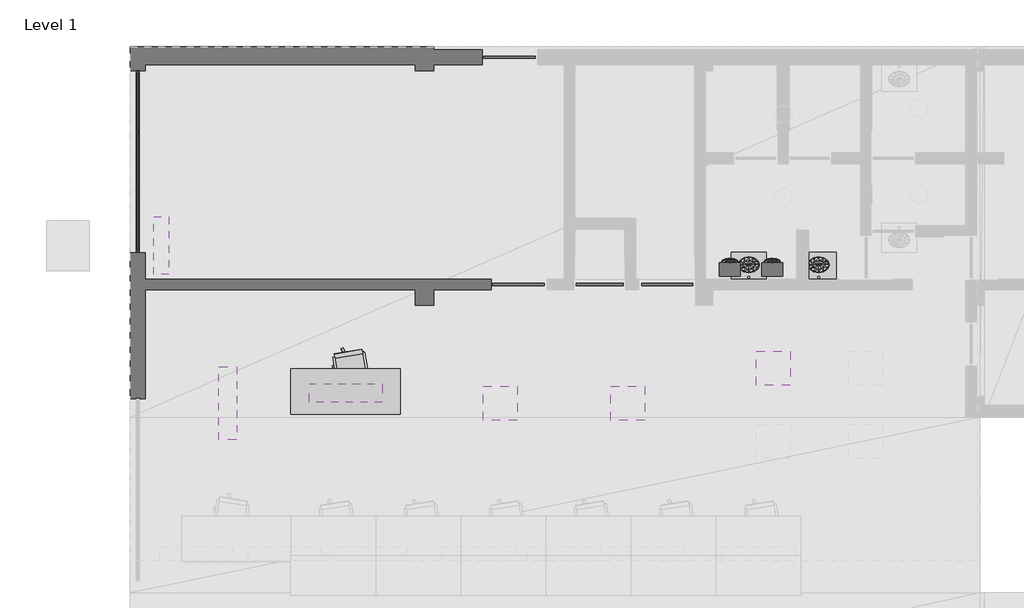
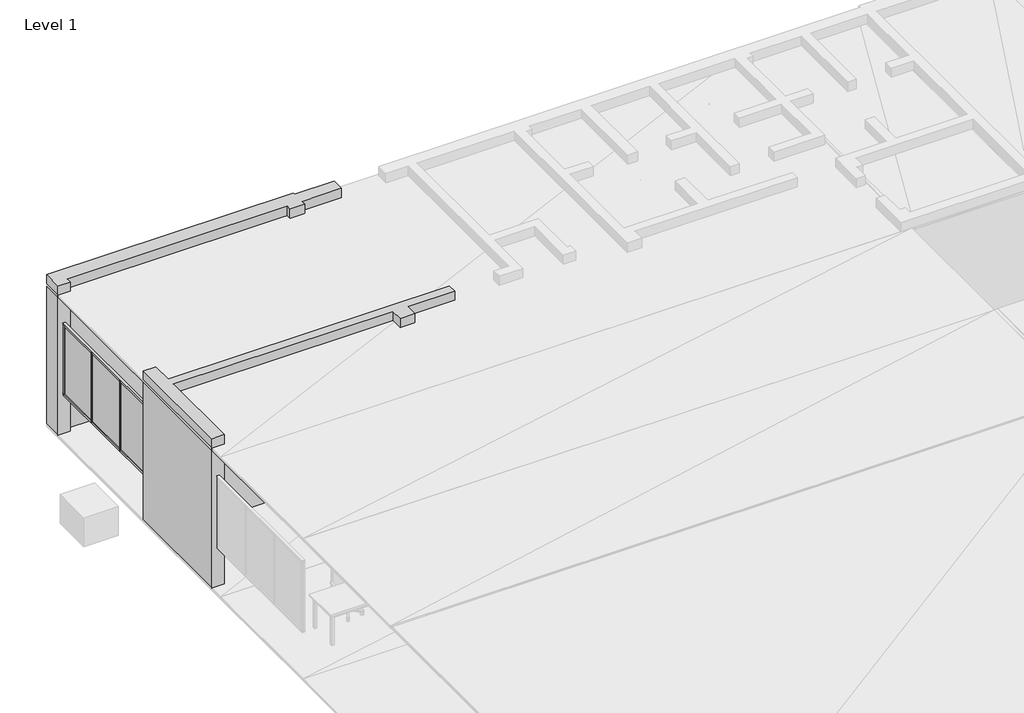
# One storey, part 11 of 14: 20 proxies.
"""IFC4 building model written with IfcOpenShell, lengths in millimetres."""

from ifc_helpers import new_model, si_unit, frame, origin, origin_with_axes, place, context, project, spatial, polyline, outline, extrude, faceted_brep, element, save

model = new_model("IFC4")

# Units and contexts
model_context = context("Model", 3, world=origin())
ifc_project = project(units=[si_unit("LENGTHUNIT", "METRE", prefix="MILLI")], contexts=[model_context])

# Site, building, storey
site = spatial("IfcSite", under=ifc_project)
building = spatial("IfcBuilding", under=site)
storey = spatial("IfcBuildingStorey", under=building, Name="Level 1", Elevation=0.0)

# Proxies
placement = place(None, origin())
element("IfcBuildingElementProxy", 1, Name="Generic Models", at=placement, inside=storey, context=model_context, shape_type="SweptSolid", body=[
    extrude(outline(polyline([(2656.826019, 16939.418793), (4456.82621, 16939.418793), (4456.82621, 16189.418793), (2656.826019, 16189.418793), (2656.826019, 16939.418793)])), frame((0.0, 0.0, 709.999979), z_axis=(0.0, 0.0, 1.0), x_axis=(1.0, 0.0, 0.0)), (0.0, 0.0, 1.0), 40.000021),
])
element("IfcBuildingElementProxy", 2, Name="Generic Models", at=placement, inside=storey, context=model_context, shape_type="SweptSolid", body=[
    extrude(outline(polyline([(5006.017685, 18239.999771), (5006.017685, 17989.999771), (4706.017494, 17989.999771), (4706.017494, 18239.999771), (256.826103, 18239.999771), (256.826103, 16450.000763), (6.826094, 16450.000763), (6.826094, 18850.000381), (256.826103, 18850.000381), (256.826103, 18420.000076), (5956.017494, 18420.000076), (5956.017494, 18239.999771), (5006.017685, 18239.999771)])), origin_with_axes(), (0.0, 0.0, 1.0), 3200.000048),
])
element("IfcBuildingElementProxy", 3, Name="Generic Models", at=placement, inside=storey, context=model_context, shape_type="SweptSolid", body=[
    extrude(outline(polyline([(5006.017685, 22200.000763), (5806.017399, 22200.000763), (5806.017399, 21950.000763), (5006.017685, 21950.000763), (5006.017685, 21850.000381), (4706.017494, 21850.000381), (4706.017494, 21950.000763), (256.826103, 21950.000763), (256.826103, 21850.000381), (6.826094, 21850.000381), (6.826094, 22250.0), (5006.017685, 22250.0), (5006.017685, 22200.000763)])), origin_with_axes(), (0.0, 0.0, 1.0), 3200.000048),
])
element("IfcBuildingElementProxy", 4, Name="Generic Models", at=placement, inside=storey, context=model_context, shape_type="SweptSolid", body=[
    extrude(outline(polyline([(399.999976, 18494.998932), (399.999976, 19444.999695), (639.999986, 19444.999695), (639.999986, 18494.998932), (399.999976, 18494.998932)])), frame((0.0, 0.0, 2309.999943), z_axis=(0.0, 0.0, 1.0), x_axis=(1.0, 0.0, 0.0)), (0.0, 0.0, 1.0), 280.00021),
])
element("IfcBuildingElementProxy", 5, Name="Generic Models", at=placement, inside=storey, context=model_context, shape_type="SweptSolid", body=[
    extrude(outline(polyline([(9279.017448, 18347.499847), (9279.017448, 18312.5), (8433.017731, 18312.5), (8433.017731, 18347.499847), (9279.017448, 18347.499847)])), origin_with_axes(), (0.0, 0.0, 1.0), 2099.999905),
])
element("IfcBuildingElementProxy", 6, Name="Generic Models", at=placement, inside=storey, context=model_context, shape_type="SweptSolid", body=[
    extrude(outline(polyline([(8131.417274, 18347.499847), (8131.417274, 18312.5), (7360.617638, 18312.5), (7360.617638, 18347.499847), (8131.417274, 18347.499847)])), origin_with_axes(), (0.0, 0.0, 1.0), 2099.999905),
])
element("IfcBuildingElementProxy", 7, Name="Generic Models", at=placement, inside=storey, context=model_context, shape_type="SweptSolid", body=[
    extrude(outline(polyline([(6829.017639, 18347.499847), (6829.017639, 18312.5), (5983.017445, 18312.5), (5983.017445, 18347.499847), (6829.017639, 18347.499847)])), origin_with_axes(), (0.0, 0.0, 1.0), 2099.999905),
])
element("IfcBuildingElementProxy", 8, Name="Generic Models", at=placement, inside=storey, context=model_context, shape_type="SweptSolid", body=[
    extrude(outline(polyline([(6679.017544, 22092.500687), (6679.017544, 22057.500839), (5833.017349, 22057.500839), (5833.017349, 22092.500687), (6679.017544, 22092.500687)])), origin_with_axes(), (0.0, 0.0, 1.0), 2099.999905),
])
element("IfcBuildingElementProxy", 9, Name="Generic Models", at=placement, inside=storey, context=model_context, shape_type="SweptSolid", body=[
    extrude(outline(polyline([(153.899997, 20837.499619), (108.900003, 20837.499619), (108.900003, 20862.499237), (153.899997, 20862.499237), (153.899997, 20837.499619)])), frame((0.0, 0.0, 850.000024), z_axis=(0.0, 0.0, 1.0), x_axis=(1.0, 0.0, 0.0)), (0.0, 0.0, 1.0), 1499.999881),
    extrude(outline(polyline([(153.899997, 19837.499619), (108.900003, 19837.499619), (108.900003, 19862.499237), (153.899997, 19862.499237), (153.899997, 19837.499619)])), frame((0.0, 0.0, 850.000024), z_axis=(0.0, 0.0, 1.0), x_axis=(1.0, 0.0, 0.0)), (0.0, 0.0, 1.0), 1499.999881),
    extrude(outline(polyline([(153.899997, 21807.500839), (108.900003, 21807.500839), (108.900003, 21852.500916), (153.899997, 21852.500916), (153.899997, 21807.500839)])), frame((0.0, 0.0, 850.000024), z_axis=(0.0, 0.0, 1.0), x_axis=(1.0, 0.0, 0.0)), (0.0, 0.0, 1.0), 1499.999881),
    extrude(outline(polyline([(153.899997, 18847.499847), (108.900003, 18847.499847), (108.900003, 18892.499924), (153.899997, 18892.499924), (153.899997, 18847.499847)])), frame((0.0, 0.0, 850.000024), z_axis=(0.0, 0.0, 1.0), x_axis=(1.0, 0.0, 0.0)), (0.0, 0.0, 1.0), 1499.999881),
    extrude(outline(polyline([(153.899997, 18850.000381), (108.900003, 18850.000381), (108.900003, 21850.000381), (153.899997, 21850.000381), (153.899997, 18850.000381)])), frame((0.0, 0.0, 2327.500105), z_axis=(0.0, 0.0, 1.0), x_axis=(1.0, 0.0, 0.0)), (0.0, 0.0, 1.0), 44.999838),
    extrude(outline(polyline([(153.899997, 18850.000381), (108.900003, 18850.000381), (108.900003, 21850.000381), (153.899997, 21850.000381), (153.899997, 18850.000381)])), frame((0.0, 0.0, 827.499986), z_axis=(0.0, 0.0, 1.0), x_axis=(1.0, 0.0, 0.0)), (0.0, 0.0, 1.0), 45.000016),
    extrude(outline(polyline([(140.400007, 18850.000381), (122.400001, 18850.000381), (122.400001, 21850.000381), (140.400007, 21850.000381), (140.400007, 18850.000381)])), frame((0.0, 0.0, 850.000024), z_axis=(0.0, 0.0, 1.0), x_axis=(1.0, 0.0, 0.0)), (0.0, 0.0, 1.0), 1499.999881),
])
element("IfcBuildingElementProxy", 10, Name="Generic Models", at=placement, inside=storey, context=model_context, shape_type="SweptSolid", body=[
    extrude(outline(polyline([(1764.189005, 15774.564743), (1464.189053, 15774.564743), (1464.189053, 16974.565506), (1764.189005, 16974.565506), (1764.189005, 15774.564743)])), frame((0.0, 0.0, 2910.000086), z_axis=(0.0, 0.0, 1.0), x_axis=(1.0, 0.0, 0.0)), (0.0, 0.0, 1.0), 39.999962),
])
element("IfcBuildingElementProxy", 11, Name="Generic Models", at=placement, inside=storey, context=model_context, shape_type="SweptSolid", body=[
    extrude(outline(polyline([(2956.82621, 16391.679764), (2956.82621, 16691.679001), (4156.826019, 16691.679001), (4156.826019, 16391.679764), (2956.82621, 16391.679764)])), frame((0.0, 0.0, 2910.000086), z_axis=(0.0, 0.0, 1.0), x_axis=(1.0, 0.0, 0.0)), (0.0, 0.0, 1.0), 39.999962),
])
element("IfcBuildingElementProxy", 12, Name="Generic Models", at=placement, inside=storey, context=model_context, shape_type="SweptSolid", body=[
    extrude(outline(polyline([(10326.018333, 16670.381546), (10326.018333, 17230.382919), (10886.017799, 17230.382919), (10886.017799, 16670.381546), (10326.018333, 16670.381546)])), frame((0.0, 0.0, 2910.000086), z_axis=(0.0, 0.0, 1.0), x_axis=(1.0, 0.0, 0.0)), (0.0, 0.0, 1.0), 39.999962),
])
element("IfcBuildingElementProxy", 13, Name="Generic Models", at=placement, inside=storey, context=model_context, shape_type="SweptSolid", body=[
    extrude(outline(polyline([(5826.017857, 16094.564438), (5826.017857, 16654.565811), (6386.018276, 16654.565811), (6386.018276, 16094.564438), (5826.017857, 16094.564438)])), frame((0.0, 0.0, 2910.000086), z_axis=(0.0, 0.0, 1.0), x_axis=(1.0, 0.0, 0.0)), (0.0, 0.0, 1.0), 39.999962),
])
element("IfcBuildingElementProxy", 14, Name="Generic Models", at=placement, inside=storey, context=model_context, shape_type="SweptSolid", body=[
    extrude(outline(polyline([(7926.018238, 16094.564438), (7926.018238, 16654.565811), (8486.018181, 16654.565811), (8486.018181, 16094.564438), (7926.018238, 16094.564438)])), frame((0.0, 0.0, 2910.000086), z_axis=(0.0, 0.0, 1.0), x_axis=(1.0, 0.0, 0.0)), (0.0, 0.0, 1.0), 39.999962),
])
element("IfcBuildingElementProxy", 15, Name="Generic Models", at=placement, inside=storey, context=model_context, shape_type="SweptSolid", body=[
    extrude(outline(polyline([(4404.326439, 16264.419556), (4359.326363, 16264.419556), (4359.326363, 16864.41803), (4404.326439, 16864.41803), (4404.326439, 16264.419556)])), frame((0.0, 0.0, 639.999986), z_axis=(0.0, 0.0, 1.0), x_axis=(1.0, 0.0, 0.0)), (0.0, 0.0, 1.0), 69.999993),
    extrude(outline(polyline([(2754.326105, 16264.419556), (2709.326029, 16264.419556), (2709.326029, 16864.41803), (2754.326105, 16864.41803), (2754.326105, 16264.419556)])), frame((0.0, 0.0, 639.999986), z_axis=(0.0, 0.0, 1.0), x_axis=(1.0, 0.0, 0.0)), (0.0, 0.0, 1.0), 69.999993),
    extrude(outline(polyline([(2731.826067, 16841.918945), (2731.826067, 16886.919022), (4381.826401, 16886.919022), (4381.826401, 16841.918945), (2731.826067, 16841.918945)])), frame((0.0, 0.0, 639.999986), z_axis=(0.0, 0.0, 1.0), x_axis=(1.0, 0.0, 0.0)), (0.0, 0.0, 1.0), 69.999993),
    extrude(outline(polyline([(2731.826067, 16241.918564), (2731.826067, 16286.91864), (4381.826401, 16286.91864), (4381.826401, 16241.918564), (2731.826067, 16241.918564)])), frame((0.0, 0.0, 639.999986), z_axis=(0.0, 0.0, 1.0), x_axis=(1.0, 0.0, 0.0)), (0.0, 0.0, 1.0), 69.999993),
    extrude(outline(polyline([(4356.826305, 16839.418411), (4356.826305, 16889.419556), (4406.826019, 16889.419556), (4406.826019, 16839.418411), (4356.826305, 16839.418411)])), frame((0.0, 0.0, 50.000001), z_axis=(0.0, 0.0, 1.0), x_axis=(1.0, 0.0, 0.0)), (0.0, 0.0, 1.0), 659.999978),
    extrude(outline(polyline([(4356.826305, 16239.41803), (4356.826305, 16289.419174), (4406.826019, 16289.419174), (4406.826019, 16239.41803), (4356.826305, 16239.41803)])), frame((0.0, 0.0, 50.000001), z_axis=(0.0, 0.0, 1.0), x_axis=(1.0, 0.0, 0.0)), (0.0, 0.0, 1.0), 659.999978),
    extrude(outline(polyline([(2706.825972, 16839.418411), (2706.825972, 16889.419556), (2756.825924, 16889.419556), (2756.825924, 16839.418411), (2706.825972, 16839.418411)])), frame((0.0, 0.0, 50.000001), z_axis=(0.0, 0.0, 1.0), x_axis=(1.0, 0.0, 0.0)), (0.0, 0.0, 1.0), 659.999978),
    extrude(outline(polyline([(2706.825972, 16239.41803), (2706.825972, 16289.419174), (2756.825924, 16289.419174), (2756.825924, 16239.41803), (2706.825972, 16239.41803)])), frame((0.0, 0.0, 50.000001), z_axis=(0.0, 0.0, 1.0), x_axis=(1.0, 0.0, 0.0)), (0.0, 0.0, 1.0), 659.999978),
])
element("IfcBuildingElementProxy", 16, Name="Generic Models", at=placement, inside=storey, context=model_context, shape_type="SweptSolid", body=[
    extrude(outline(polyline([(3402.490854, 16980.752945), (3407.511473, 16951.17569), (3377.934694, 16946.153641), (3372.913837, 16975.730896), (3402.490854, 16980.752945)])), frame((0.0, 0.0, 439.999998), z_axis=(0.0, 0.0, 1.0), x_axis=(1.0, 0.0, 0.0)), (0.0, 0.0, 1.0), 199.999988),
    extrude(outline(polyline([(3379.014969, 17133.983612), (3435.916901, 16798.780441), (3401.41058, 16792.922974), (3344.508648, 17128.126144), (3379.014969, 17133.983612)])), frame((0.0, 0.0, 612.500012), z_axis=(0.0, 0.0, 1.0), x_axis=(1.0, 0.0, 0.0)), (0.0, 0.0, 1.0), 34.999967),
    extrude(outline(polyline([(3440.169334, 17162.115097), (3444.353342, 17137.468338), (3419.705868, 17133.283615), (3415.52186, 17157.932281), (3440.169334, 17162.115097)])), frame((0.0, 0.0, 460.000008), z_axis=(0.0, 0.0, 1.0), x_axis=(1.0, 0.0, 0.0)), (0.0, 0.0, 1.0), 400.000006),
    extrude(outline(polyline([(3895.43891, 17064.432144), (3900.459528, 17034.854889), (3870.88275, 17029.834747), (3865.861893, 17059.410095), (3895.43891, 17064.432144)])), frame((0.0, 0.0, 439.999998), z_axis=(0.0, 0.0, 1.0), x_axis=(1.0, 0.0, 0.0)), (0.0, 0.0, 1.0), 199.999988),
    extrude(outline(polyline([(3871.962786, 17217.664719), (3928.864956, 16882.459641), (3894.358635, 16876.602173), (3837.456465, 17211.807251), (3871.962786, 17217.664719)])), frame((0.0, 0.0, 612.500012), z_axis=(0.0, 0.0, 1.0), x_axis=(1.0, 0.0, 0.0)), (0.0, 0.0, 1.0), 34.999967),
    extrude(outline(polyline([(3795.091867, 17222.364426), (3799.275875, 17197.717667), (3774.628401, 17193.532944), (3770.444393, 17218.18161), (3795.091867, 17222.364426)])), frame((0.0, 0.0, 460.000008), z_axis=(0.0, 0.0, 1.0), x_axis=(1.0, 0.0, 0.0)), (0.0, 0.0, 1.0), 400.000006),
    extrude(outline(polyline([(3826.623917, 17260.68306), (3838.33909, 17191.669464), (3384.826899, 17114.685059), (3373.111725, 17183.696747), (3826.623917, 17260.68306)])), frame((0.0, 0.0, 460.000008), z_axis=(0.0, 0.0, 1.0), x_axis=(1.0, 0.0, 0.0)), (0.0, 0.0, 1.0), 479.99999),
    extrude(outline(polyline([(3825.787067, 17265.611649), (3896.077871, 16851.535797), (3442.56568, 16774.551392), (3372.274876, 17188.627243), (3825.787067, 17265.611649)])), frame((0.0, 0.0, 400.000006), z_axis=(0.0, 0.0, 1.0), x_axis=(1.0, 0.0, 0.0)), (0.0, 0.0, 1.0), 69.999993),
    extrude(outline(polyline([(3651.676416, 16989.770889), (3634.176254, 16985.080719), (3616.676331, 16989.770889), (3603.865385, 17002.580643), (3599.176407, 17020.080566), (3603.865385, 17037.582397), (3616.676331, 17050.392151), (3634.176254, 17055.082321), (3651.676416, 17050.392151), (3664.487362, 17037.582397), (3669.17634, 17020.080566), (3664.487362, 17002.580643), (3651.676416, 16989.770889)])), frame((0.0, 0.0, 115.000002), z_axis=(0.0, 0.0, 1.0), x_axis=(1.0, 0.0, 0.0)), (0.0, 0.0, 1.0), 280.000009),
    extrude(outline(polyline([(3543.950796, 17240.924835), (3504.08411, 17220.052719), (3478.573799, 17268.777847), (3518.440485, 17289.651871), (3543.950796, 17240.924835)])), frame((0.0, 0.0, 35.0), z_axis=(0.0, 0.0, 1.0), x_axis=(1.0, 0.0, 0.0)), (0.0, 0.0, 1.0), 59.999999),
    extrude(outline(polyline([(3651.999235, 17023.769379), (3620.991707, 17007.534027), (3481.84371, 17273.313522), (3512.851238, 17289.546967), (3651.999235, 17023.769379)])), frame((0.0, 0.0, 82.500003), z_axis=(0.0, 0.0, 1.0), x_axis=(1.0, 0.0, 0.0)), (0.0, 0.0, 1.0), 34.999997),
    extrude(outline(polyline([(3816.329956, 17174.135208), (3784.15966, 17205.600739), (3822.617769, 17244.920731), (3854.787827, 17213.4552), (3816.329956, 17174.135208)])), frame((0.0, 0.0, 35.0), z_axis=(0.0, 0.0, 1.0), x_axis=(1.0, 0.0, 0.0)), (0.0, 0.0, 1.0), 59.999999),
    extrude(outline(polyline([(3643.190861, 17004.270554), (3618.169546, 17028.743744), (3827.940226, 17243.211746), (3852.961302, 17218.738556), (3643.190861, 17004.270554)])), frame((0.0, 0.0, 82.500003), z_axis=(0.0, 0.0, 1.0), x_axis=(1.0, 0.0, 0.0)), (0.0, 0.0, 1.0), 34.999997),
    extrude(outline(polyline([(3836.978912, 16894.449234), (3856.963396, 16934.766769), (3906.242132, 16910.341263), (3886.257648, 16870.023727), (3836.978912, 16894.449234)])), frame((0.0, 0.0, 35.0), z_axis=(0.0, 0.0, 1.0), x_axis=(1.0, 0.0, 0.0)), (0.0, 0.0, 1.0), 59.999999),
    extrude(outline(polyline([(3621.924639, 17006.622314), (3637.4681, 17037.981033), (3906.261683, 16904.752731), (3890.718222, 16873.392105), (3621.924639, 17006.622314)])), frame((0.0, 0.0, 82.500003), z_axis=(0.0, 0.0, 1.0), x_axis=(1.0, 0.0, 0.0)), (0.0, 0.0, 1.0), 34.999997),
    extrude(outline(polyline([(3577.361822, 16788.381577), (3621.882915, 16781.835556), (3613.880873, 16727.420807), (3569.359779, 16733.966827), (3577.361822, 16788.381577)])), frame((0.0, 0.0, 35.0), z_axis=(0.0, 0.0, 1.0), x_axis=(1.0, 0.0, 0.0)), (0.0, 0.0, 1.0), 59.999999),
    extrude(outline(polyline([(3617.589951, 17027.574539), (3652.217627, 17022.481918), (3608.570337, 16725.673676), (3573.9429, 16730.766296), (3617.589951, 17027.574539)])), frame((0.0, 0.0, 82.500003), z_axis=(0.0, 0.0, 1.0), x_axis=(1.0, 0.0, 0.0)), (0.0, 0.0, 1.0), 34.999997),
    extrude(outline(polyline([(3396.2605, 17002.515793), (3403.791666, 16958.150864), (3349.567413, 16948.945999), (3342.036247, 16993.310928), (3396.2605, 17002.515793)])), frame((0.0, 0.0, 35.0), z_axis=(0.0, 0.0, 1.0), x_axis=(1.0, 0.0, 0.0)), (0.0, 0.0, 1.0), 59.999999),
    extrude(outline(polyline([(3636.177063, 17038.171768), (3642.034531, 17003.665924), (3346.265793, 16953.456879), (3340.408325, 16987.96463), (3636.177063, 17038.171768)])), frame((0.0, 0.0, 82.500003), z_axis=(0.0, 0.0, 1.0), x_axis=(1.0, 0.0, 0.0)), (0.0, 0.0, 1.0), 34.999997),
])
element("IfcBuildingElementProxy", 17, Name="Generic Models", at=placement, inside=storey, context=model_context, shape_type="Brep", body=[
    faceted_brep([(10646.6465, 18684.999466, 1180.525541), (10656.024933, 18700.000763, 1180.525541), (10586.025238, 18700.000763, 1210.000038), (10691.02478, 18674.01886, 1100.000024), (10646.6465, 18655.000687, 1100.000024), (10621.025085, 18674.01886, 1180.525541), (10707.268715, 18700.000763, 1100.000024), (10646.6465, 18715.000153, 1180.525541), (10586.025238, 18670.000076, 1180.525541), (10551.025391, 18674.01886, 1180.525541), (10525.403023, 18684.999466, 1180.525541), (10516.02459, 18700.000763, 1180.525541), (10525.403023, 18715.000153, 1180.525541), (10551.025391, 18725.980759, 1180.525541), (10586.025238, 18729.999542, 1180.525541), (10621.025085, 18725.980759, 1180.525541), (10707.268715, 18670.000076, 990.00001), (10656.024933, 18648.038864, 990.00001), (10586.025238, 18648.038864, 1100.000024), (10586.025238, 18640.001297, 990.00001), (10726.024628, 18700.000763, 990.00001), (10691.02478, 18725.980759, 1100.000024), (10525.403023, 18655.000687, 1100.000024), (10481.024742, 18674.01886, 1100.000024), (10464.781761, 18700.000763, 1100.000024), (10481.024742, 18725.980759, 1100.000024), (10525.403023, 18745.000839, 1100.000024), (10586.025238, 18751.962662, 1100.000024), (10646.6465, 18745.000839, 1100.000024), (10691.02478, 18674.01886, 879.999995), (10646.6465, 18655.000687, 879.999995), (10586.025238, 18648.038864, 879.999995), (10516.02459, 18648.038864, 990.00001), (10525.403023, 18655.000687, 879.999995), (10707.268715, 18700.000763, 879.999995), (10707.268715, 18729.999542, 990.00001), (10464.781761, 18670.000076, 990.00001), (10446.024895, 18700.000763, 990.00001), (10464.781761, 18729.999542, 990.00001), (10516.02459, 18751.962662, 990.00001), (10586.025238, 18760.000229, 990.00001), (10656.024933, 18751.962662, 990.00001), (10646.6465, 18684.999466, 799.474418), (10621.025085, 18674.01886, 799.474418), (10586.025238, 18670.000076, 799.474418), (10551.025391, 18674.01886, 799.474418), (10481.024742, 18674.01886, 879.999995), (10525.403023, 18684.999466, 799.474418), (10656.024933, 18700.000763, 799.474418), (10691.02478, 18725.980759, 879.999995), (10464.781761, 18700.000763, 879.999995), (10481.024742, 18725.980759, 879.999995), (10525.403023, 18745.000839, 879.999995), (10586.025238, 18751.962662, 879.999995), (10646.6465, 18745.000839, 879.999995), (10586.025238, 18700.000763, 769.999981), (10516.02459, 18700.000763, 799.474418), (10646.6465, 18715.000153, 799.474418), (10525.403023, 18715.000153, 799.474418), (10551.025391, 18725.980759, 799.474418), (10586.025238, 18729.999542, 799.474418), (10621.025085, 18725.980759, 799.474418)], [[[0, 1, 2]], [[3, 1, 0]], [[4, 3, 0]], [[4, 0, 5]], [[5, 0, 2]], [[3, 6, 1]], [[6, 7, 1]], [[1, 7, 2]], [[8, 5, 2]], [[9, 8, 2]], [[10, 9, 2]], [[11, 10, 2]], [[12, 11, 2]], [[13, 12, 2]], [[14, 13, 2]], [[15, 14, 2]], [[7, 15, 2]], [[16, 6, 3]], [[17, 16, 3]], [[17, 3, 4]], [[18, 4, 5]], [[19, 17, 4]], [[19, 4, 18]], [[18, 5, 8]], [[16, 20, 6]], [[20, 21, 6]], [[6, 21, 7]], [[21, 15, 7]], [[22, 18, 8]], [[22, 8, 9]], [[23, 22, 9]], [[23, 9, 10]], [[24, 23, 10]], [[24, 10, 11]], [[25, 24, 11]], [[25, 11, 12]], [[26, 25, 12]], [[26, 12, 13]], [[27, 26, 13]], [[27, 13, 14]], [[28, 27, 14]], [[28, 14, 15]], [[21, 28, 15]], [[29, 20, 16]], [[30, 29, 16]], [[30, 16, 17]], [[31, 30, 17]], [[31, 17, 19]], [[32, 19, 18]], [[32, 18, 22]], [[33, 31, 19]], [[33, 19, 32]], [[29, 34, 20]], [[34, 35, 20]], [[20, 35, 21]], [[35, 28, 21]], [[36, 32, 22]], [[36, 22, 23]], [[37, 36, 23]], [[37, 23, 24]], [[38, 37, 24]], [[38, 24, 25]], [[39, 38, 25]], [[39, 25, 26]], [[40, 39, 26]], [[40, 26, 27]], [[41, 40, 27]], [[41, 27, 28]], [[35, 41, 28]], [[42, 34, 29]], [[43, 42, 29]], [[43, 29, 30]], [[44, 43, 30]], [[44, 30, 31]], [[45, 44, 31]], [[45, 31, 33]], [[46, 33, 32]], [[46, 32, 36]], [[47, 45, 33]], [[47, 33, 46]], [[42, 48, 34]], [[48, 49, 34]], [[34, 49, 35]], [[49, 41, 35]], [[50, 46, 36]], [[50, 36, 37]], [[51, 50, 37]], [[51, 37, 38]], [[52, 51, 38]], [[52, 38, 39]], [[53, 52, 39]], [[53, 39, 40]], [[54, 53, 40]], [[54, 40, 41]], [[49, 54, 41]], [[55, 48, 42]], [[55, 42, 43]], [[55, 43, 44]], [[55, 44, 45]], [[55, 45, 47]], [[56, 47, 46]], [[56, 46, 50]], [[55, 47, 56]], [[48, 57, 49]], [[55, 57, 48]], [[57, 54, 49]], [[58, 56, 50]], [[58, 50, 51]], [[59, 58, 51]], [[59, 51, 52]], [[60, 59, 52]], [[60, 52, 53]], [[61, 60, 53]], [[61, 53, 54]], [[57, 61, 54]], [[55, 56, 58]], [[55, 58, 59]], [[55, 59, 60]], [[55, 60, 61]], [[55, 61, 57]]]),
    faceted_brep([(10603.345871, 18530.000687, 1379.999995), (10596.025467, 18537.321091, 1379.999995), (10586.025238, 18540.000916, 1379.999995), (10576.025009, 18537.321091, 1379.999995), (10568.704605, 18530.000687, 1379.999995), (10566.02478, 18520.000458, 1379.999995), (10568.704605, 18510.000229, 1379.999995), (10576.025009, 18502.679825, 1379.999995), (10586.025238, 18500.0, 1379.999995), (10596.025467, 18502.679825, 1379.999995), (10603.345871, 18510.000229, 1379.999995), (10606.024742, 18520.000458, 1379.999995), (10596.025467, 18537.321091, 1340.000033), (10586.025238, 18540.000916, 1340.000033), (10566.02478, 18520.000458, 1340.000033), (10568.704605, 18510.000229, 1340.000033), (10596.025467, 18502.679825, 1340.000033), (10603.345871, 18510.000229, 1340.000033), (10576.025009, 18537.321091, 1340.000033), (10568.704605, 18530.000687, 1340.000033), (10576.025009, 18502.679825, 1340.000033), (10586.025238, 18500.0, 1340.000033), (10606.024742, 18520.000458, 1340.000033), (10603.345871, 18530.000687, 1340.000033)], [[[0, 1, 2, 3, 4, 5, 6, 7, 8, 9, 10, 11]], [[12, 13, 2, 1]], [[14, 15, 6, 5]], [[16, 17, 10, 9]], [[18, 19, 4, 3]], [[20, 21, 8, 7]], [[22, 23, 0, 11]], [[13, 18, 3, 2]], [[23, 12, 1, 0]], [[19, 14, 5, 4]], [[15, 20, 7, 6]], [[21, 16, 9, 8]], [[16, 21, 20, 15, 14, 19, 18, 13, 12, 23, 22, 17]], [[17, 22, 11, 10]]]),
    faceted_brep([(10416.025162, 18690.000534, 680.000007), (10416.025162, 18470.001221, 680.000007), (10416.025162, 18470.001221, 1379.999995), (10416.025162, 18690.000534, 1379.999995), (10756.025314, 18690.000534, 680.000007), (10756.025314, 18690.000534, 1379.999995), (10756.025314, 18470.001221, 680.000007), (10756.025314, 18470.001221, 1379.999995)], [[[0, 1, 2, 3]], [[4, 0, 3, 5]], [[1, 0, 4, 6]], [[2, 7, 5, 3]], [[1, 6, 7, 2]], [[6, 4, 5, 7]]]),
])
element("IfcBuildingElementProxy", 18, Name="Generic Models", at=placement, inside=storey, context=model_context, shape_type="Brep", body=[
    faceted_brep([(9946.64669, 18684.999466, 1180.525541), (9956.025124, 18700.000763, 1180.525541), (9886.025429, 18700.000763, 1210.000038), (9991.024971, 18674.01886, 1100.000024), (9946.64669, 18655.000687, 1100.000024), (9921.025276, 18674.01886, 1180.525541), (10007.268906, 18700.000763, 1100.000024), (9946.64669, 18715.000153, 1180.525541), (9886.025429, 18670.000076, 1180.525541), (9851.024628, 18674.01886, 1180.525541), (9825.403214, 18684.999466, 1180.525541), (9816.02478, 18700.000763, 1180.525541), (9825.403214, 18715.000153, 1180.525541), (9851.024628, 18725.980759, 1180.525541), (9886.025429, 18729.999542, 1180.525541), (9921.025276, 18725.980759, 1180.525541), (10007.268906, 18670.000076, 990.00001), (9956.025124, 18648.038864, 990.00001), (9886.025429, 18648.038864, 1100.000024), (9886.025429, 18640.001297, 990.00001), (10026.024818, 18700.000763, 990.00001), (9991.024971, 18725.980759, 1100.000024), (9825.403214, 18655.000687, 1100.000024), (9781.024933, 18674.01886, 1100.000024), (9764.780998, 18700.000763, 1100.000024), (9781.024933, 18725.980759, 1100.000024), (9825.403214, 18745.000839, 1100.000024), (9886.025429, 18751.962662, 1100.000024), (9946.64669, 18745.000839, 1100.000024), (9991.024971, 18674.01886, 879.999995), (9946.64669, 18655.000687, 879.999995), (9886.025429, 18648.038864, 879.999995), (9816.02478, 18648.038864, 990.00001), (9825.403214, 18655.000687, 879.999995), (10007.268906, 18700.000763, 879.999995), (10007.268906, 18729.999542, 990.00001), (9764.780998, 18670.000076, 990.00001), (9746.025085, 18700.000763, 990.00001), (9764.780998, 18729.999542, 990.00001), (9816.02478, 18751.962662, 990.00001), (9886.025429, 18760.000229, 990.00001), (9956.025124, 18751.962662, 990.00001), (9946.64669, 18684.999466, 799.474418), (9921.025276, 18674.01886, 799.474418), (9886.025429, 18670.000076, 799.474418), (9851.024628, 18674.01886, 799.474418), (9781.024933, 18674.01886, 879.999995), (9825.403214, 18684.999466, 799.474418), (9956.025124, 18700.000763, 799.474418), (9991.024971, 18725.980759, 879.999995), (9764.780998, 18700.000763, 879.999995), (9781.024933, 18725.980759, 879.999995), (9825.403214, 18745.000839, 879.999995), (9886.025429, 18751.962662, 879.999995), (9946.64669, 18745.000839, 879.999995), (9886.025429, 18700.000763, 769.999981), (9816.02478, 18700.000763, 799.474418), (9946.64669, 18715.000153, 799.474418), (9825.403214, 18715.000153, 799.474418), (9851.024628, 18725.980759, 799.474418), (9886.025429, 18729.999542, 799.474418), (9921.025276, 18725.980759, 799.474418)], [[[0, 1, 2]], [[3, 1, 0]], [[4, 3, 0]], [[4, 0, 5]], [[5, 0, 2]], [[3, 6, 1]], [[6, 7, 1]], [[1, 7, 2]], [[8, 5, 2]], [[9, 8, 2]], [[10, 9, 2]], [[11, 10, 2]], [[12, 11, 2]], [[13, 12, 2]], [[14, 13, 2]], [[15, 14, 2]], [[7, 15, 2]], [[16, 6, 3]], [[17, 16, 3]], [[17, 3, 4]], [[18, 4, 5]], [[19, 17, 4]], [[19, 4, 18]], [[18, 5, 8]], [[16, 20, 6]], [[20, 21, 6]], [[6, 21, 7]], [[21, 15, 7]], [[22, 18, 8]], [[22, 8, 9]], [[23, 22, 9]], [[23, 9, 10]], [[24, 23, 10]], [[24, 10, 11]], [[25, 24, 11]], [[25, 11, 12]], [[26, 25, 12]], [[26, 12, 13]], [[27, 26, 13]], [[27, 13, 14]], [[28, 27, 14]], [[28, 14, 15]], [[21, 28, 15]], [[29, 20, 16]], [[30, 29, 16]], [[30, 16, 17]], [[31, 30, 17]], [[31, 17, 19]], [[32, 19, 18]], [[32, 18, 22]], [[33, 31, 19]], [[33, 19, 32]], [[29, 34, 20]], [[34, 35, 20]], [[20, 35, 21]], [[35, 28, 21]], [[36, 32, 22]], [[36, 22, 23]], [[37, 36, 23]], [[37, 23, 24]], [[38, 37, 24]], [[38, 24, 25]], [[39, 38, 25]], [[39, 25, 26]], [[40, 39, 26]], [[40, 26, 27]], [[41, 40, 27]], [[41, 27, 28]], [[35, 41, 28]], [[42, 34, 29]], [[43, 42, 29]], [[43, 29, 30]], [[44, 43, 30]], [[44, 30, 31]], [[45, 44, 31]], [[45, 31, 33]], [[46, 33, 32]], [[46, 32, 36]], [[47, 45, 33]], [[47, 33, 46]], [[42, 48, 34]], [[48, 49, 34]], [[34, 49, 35]], [[49, 41, 35]], [[50, 46, 36]], [[50, 36, 37]], [[51, 50, 37]], [[51, 37, 38]], [[52, 51, 38]], [[52, 38, 39]], [[53, 52, 39]], [[53, 39, 40]], [[54, 53, 40]], [[54, 40, 41]], [[49, 54, 41]], [[55, 48, 42]], [[55, 42, 43]], [[55, 43, 44]], [[55, 44, 45]], [[55, 45, 47]], [[56, 47, 46]], [[56, 46, 50]], [[55, 47, 56]], [[48, 57, 49]], [[55, 57, 48]], [[57, 54, 49]], [[58, 56, 50]], [[58, 50, 51]], [[59, 58, 51]], [[59, 51, 52]], [[60, 59, 52]], [[60, 52, 53]], [[61, 60, 53]], [[61, 53, 54]], [[57, 61, 54]], [[55, 56, 58]], [[55, 58, 59]], [[55, 59, 60]], [[55, 60, 61]], [[55, 61, 57]]]),
    faceted_brep([(9903.345108, 18530.000687, 1379.999995), (9896.024704, 18537.321091, 1379.999995), (9886.025429, 18540.000916, 1379.999995), (9876.0252, 18537.321091, 1379.999995), (9868.704796, 18530.000687, 1379.999995), (9866.024971, 18520.000458, 1379.999995), (9868.704796, 18510.000229, 1379.999995), (9876.0252, 18502.679825, 1379.999995), (9886.025429, 18500.0, 1379.999995), (9896.024704, 18502.679825, 1379.999995), (9903.345108, 18510.000229, 1379.999995), (9906.024933, 18520.000458, 1379.999995), (9896.024704, 18537.321091, 1340.000033), (9886.025429, 18540.000916, 1340.000033), (9866.024971, 18520.000458, 1340.000033), (9868.704796, 18510.000229, 1340.000033), (9896.024704, 18502.679825, 1340.000033), (9903.345108, 18510.000229, 1340.000033), (9876.0252, 18537.321091, 1340.000033), (9868.704796, 18530.000687, 1340.000033), (9876.0252, 18502.679825, 1340.000033), (9886.025429, 18500.0, 1340.000033), (9906.024933, 18520.000458, 1340.000033), (9903.345108, 18530.000687, 1340.000033)], [[[0, 1, 2, 3, 4, 5, 6, 7, 8, 9, 10, 11]], [[12, 13, 2, 1]], [[14, 15, 6, 5]], [[16, 17, 10, 9]], [[18, 19, 4, 3]], [[20, 21, 8, 7]], [[22, 23, 0, 11]], [[13, 18, 3, 2]], [[23, 12, 1, 0]], [[19, 14, 5, 4]], [[15, 20, 7, 6]], [[21, 16, 9, 8]], [[16, 21, 20, 15, 14, 19, 18, 13, 12, 23, 22, 17]], [[17, 22, 11, 10]]]),
    faceted_brep([(9716.025352, 18690.000534, 680.000007), (9716.025352, 18470.001221, 680.000007), (9716.025352, 18470.001221, 1379.999995), (9716.025352, 18690.000534, 1379.999995), (10056.024551, 18690.000534, 680.000007), (10056.024551, 18690.000534, 1379.999995), (10056.024551, 18470.001221, 680.000007), (10056.024551, 18470.001221, 1379.999995)], [[[0, 1, 2, 3]], [[4, 0, 3, 5]], [[1, 0, 4, 6]], [[2, 7, 5, 3]], [[1, 6, 7, 2]], [[6, 4, 5, 7]]]),
])
element("IfcBuildingElementProxy", 19, Name="Generic Models", at=placement, inside=storey, context=model_context, shape_type="Brep", body=[
    faceted_brep([(10282.272339, 18620.000839, 868.971169), (10295.000076, 18655.000687, 868.971169), (10199.999809, 18655.000687, 875.0), (10342.499733, 18594.377518, 852.500021), (10282.272339, 18549.999237, 852.500021), (10247.50042, 18594.377518, 868.971169), (10364.544868, 18655.000687, 852.500021), (10282.272339, 18690.000534, 868.971169), (10199.999809, 18584.999084, 868.971169), (10152.500153, 18594.377518, 868.971169), (10117.72728, 18620.000839, 868.971169), (10104.999542, 18655.000687, 868.971169), (10117.72728, 18690.000534, 868.971169), (10152.500153, 18715.621948, 868.971169), (10199.999809, 18725.000381, 868.971169), (10247.50042, 18715.621948, 868.971169), (10364.544868, 18584.999084, 829.999983), (10295.000076, 18533.756256, 829.999983), (10199.999809, 18533.756256, 852.500021), (10199.999809, 18514.99939, 829.999983), (10390.000343, 18655.000687, 829.999983), (10342.499733, 18715.621948, 852.500021), (10117.72728, 18549.999237, 852.500021), (10057.499886, 18594.377518, 852.500021), (10035.45475, 18655.000687, 852.500021), (10057.499886, 18715.621948, 852.500021), (10117.72728, 18760.000229, 852.500021), (10199.999809, 18776.24321, 852.500021), (10282.272339, 18760.000229, 852.500021), (10342.499733, 18594.377518, 807.500005), (10282.272339, 18549.999237, 807.500005), (10199.999809, 18533.756256, 807.500005), (10104.999542, 18533.756256, 829.999983), (10117.72728, 18549.999237, 807.500005), (10364.544868, 18655.000687, 807.500005), (10364.544868, 18725.000381, 829.999983), (10035.45475, 18584.999084, 829.999983), (10010.000229, 18655.000687, 829.999983), (10035.45475, 18725.000381, 829.999983), (10104.999542, 18776.24321, 829.999983), (10199.999809, 18795.000076, 829.999983), (10295.000076, 18776.24321, 829.999983), (10282.272339, 18620.000839, 791.028857), (10247.50042, 18594.377518, 791.028857), (10199.999809, 18584.999084, 791.028857), (10152.500153, 18594.377518, 791.028857), (10057.499886, 18594.377518, 807.500005), (10117.72728, 18620.000839, 791.028857), (10295.000076, 18655.000687, 791.028857), (10342.499733, 18715.621948, 807.500005), (10035.45475, 18655.000687, 807.500005), (10057.499886, 18715.621948, 807.500005), (10117.72728, 18760.000229, 807.500005), (10199.999809, 18776.24321, 807.500005), (10282.272339, 18760.000229, 807.500005), (10199.999809, 18655.000687, 785.000026), (10104.999542, 18655.000687, 791.028857), (10282.272339, 18690.000534, 791.028857), (10117.72728, 18690.000534, 791.028857), (10152.500153, 18715.621948, 791.028857), (10199.999809, 18725.000381, 791.028857), (10247.50042, 18715.621948, 791.028857)], [[[0, 1, 2]], [[3, 1, 0]], [[4, 3, 0]], [[4, 0, 5]], [[5, 0, 2]], [[3, 6, 1]], [[6, 7, 1]], [[1, 7, 2]], [[8, 5, 2]], [[9, 8, 2]], [[10, 9, 2]], [[11, 10, 2]], [[12, 11, 2]], [[13, 12, 2]], [[14, 13, 2]], [[15, 14, 2]], [[7, 15, 2]], [[16, 6, 3]], [[17, 16, 3]], [[17, 3, 4]], [[18, 4, 5]], [[19, 17, 4]], [[19, 4, 18]], [[18, 5, 8]], [[16, 20, 6]], [[20, 21, 6]], [[6, 21, 7]], [[21, 15, 7]], [[22, 18, 8]], [[22, 8, 9]], [[23, 22, 9]], [[23, 9, 10]], [[24, 23, 10]], [[24, 10, 11]], [[25, 24, 11]], [[25, 11, 12]], [[26, 25, 12]], [[26, 12, 13]], [[27, 26, 13]], [[27, 13, 14]], [[28, 27, 14]], [[28, 14, 15]], [[21, 28, 15]], [[29, 20, 16]], [[30, 29, 16]], [[30, 16, 17]], [[31, 30, 17]], [[31, 17, 19]], [[32, 19, 18]], [[32, 18, 22]], [[33, 31, 19]], [[33, 19, 32]], [[29, 34, 20]], [[34, 35, 20]], [[20, 35, 21]], [[35, 28, 21]], [[36, 32, 22]], [[36, 22, 23]], [[37, 36, 23]], [[37, 23, 24]], [[38, 37, 24]], [[38, 24, 25]], [[39, 38, 25]], [[39, 25, 26]], [[40, 39, 26]], [[40, 26, 27]], [[41, 40, 27]], [[41, 27, 28]], [[35, 41, 28]], [[42, 34, 29]], [[43, 42, 29]], [[43, 29, 30]], [[44, 43, 30]], [[44, 30, 31]], [[45, 44, 31]], [[45, 31, 33]], [[46, 33, 32]], [[46, 32, 36]], [[47, 45, 33]], [[47, 33, 46]], [[42, 48, 34]], [[48, 49, 34]], [[34, 49, 35]], [[49, 41, 35]], [[50, 46, 36]], [[50, 36, 37]], [[51, 50, 37]], [[51, 37, 38]], [[52, 51, 38]], [[52, 38, 39]], [[53, 52, 39]], [[53, 39, 40]], [[54, 53, 40]], [[54, 40, 41]], [[49, 54, 41]], [[55, 48, 42]], [[55, 42, 43]], [[55, 43, 44]], [[55, 44, 45]], [[55, 45, 47]], [[56, 47, 46]], [[56, 46, 50]], [[55, 47, 56]], [[48, 57, 49]], [[55, 57, 48]], [[57, 54, 49]], [[58, 56, 50]], [[58, 50, 51]], [[59, 58, 51]], [[59, 51, 52]], [[60, 59, 52]], [[60, 52, 53]], [[61, 60, 53]], [[61, 53, 54]], [[57, 61, 54]], [[55, 56, 58]], [[55, 58, 59]], [[55, 59, 60]], [[55, 60, 61]], [[55, 61, 57]]]),
    faceted_brep([(10215.58857, 18458.999634, 1000.0), (10208.999634, 18465.587616, 1000.0), (10199.999809, 18468.000412, 1000.0), (10190.999985, 18465.587616, 1000.0), (10184.412003, 18458.999634, 1000.0), (10182.00016, 18450.000763, 1000.0), (10184.412003, 18440.999985, 1000.0), (10190.999985, 18434.412003, 1000.0), (10199.999809, 18431.999207, 1000.0), (10208.999634, 18434.412003, 1000.0), (10215.58857, 18440.999985, 1000.0), (10218.000412, 18450.000763, 1000.0), (10208.999634, 18465.587616, 819.999993), (10199.999809, 18468.000412, 819.999993), (10182.00016, 18450.000763, 819.999993), (10184.412003, 18440.999985, 819.999993), (10208.999634, 18434.412003, 819.999993), (10215.58857, 18440.999985, 819.999993), (10190.999985, 18465.587616, 819.999993), (10184.412003, 18458.999634, 819.999993), (10190.999985, 18434.412003, 819.999993), (10199.999809, 18431.999207, 819.999993), (10218.000412, 18450.000763, 819.999993), (10215.58857, 18458.999634, 819.999993)], [[[0, 1, 2, 3, 4, 5, 6, 7, 8, 9, 10, 11]], [[12, 13, 2, 1]], [[14, 15, 6, 5]], [[16, 17, 10, 9]], [[18, 19, 4, 3]], [[20, 21, 8, 7]], [[22, 23, 0, 11]], [[13, 18, 3, 2]], [[23, 12, 1, 0]], [[19, 14, 5, 4]], [[15, 20, 7, 6]], [[21, 16, 9, 8]], [[16, 21, 20, 15, 14, 19, 18, 13, 12, 23, 22, 17]], [[17, 22, 11, 10]]]),
    faceted_brep([(9909.999847, 18860.00061, 759.99999), (9909.999847, 18379.999161, 759.99999), (9909.999847, 18379.999161, 839.999974), (9909.999847, 18860.00061, 839.999974), (10489.999771, 18860.00061, 759.99999), (10489.999771, 18860.00061, 839.999974), (10489.999771, 18379.999161, 759.99999), (10489.999771, 18379.999161, 839.999974)], [[[0, 1, 2, 3]], [[4, 0, 3, 5]], [[1, 0, 4, 6]], [[2, 7, 5, 3]], [[1, 6, 7, 2]], [[6, 4, 5, 7]]]),
    faceted_brep([(9949.999809, 18819.999695, 39.999999), (9949.999809, 18420.000076, 39.999999), (9949.999809, 18420.000076, 759.99999), (9949.999809, 18819.999695, 759.99999), (10449.999809, 18819.999695, 39.999999), (10449.999809, 18819.999695, 759.99999), (10449.999809, 18420.000076, 39.999999), (10449.999809, 18420.000076, 759.99999)], [[[0, 1, 2, 3]], [[4, 0, 3, 5]], [[1, 0, 4, 6]], [[2, 7, 5, 3]], [[1, 6, 7, 2]], [[6, 4, 5, 7]]]),
])
element("IfcBuildingElementProxy", 20, Name="Generic Models", at=placement, inside=storey, context=model_context, shape_type="Brep", body=[
    faceted_brep([(11432.271957, 18620.000839, 868.971169), (11444.999695, 18655.000687, 868.971169), (11350.000381, 18655.000687, 875.0), (11492.500305, 18594.377518, 852.500021), (11432.271957, 18549.999237, 852.500021), (11397.500038, 18594.377518, 868.971169), (11514.544487, 18655.000687, 852.500021), (11432.271957, 18690.000534, 868.971169), (11350.000381, 18584.999084, 868.971169), (11302.499771, 18594.377518, 868.971169), (11267.727852, 18620.000839, 868.971169), (11255.000114, 18655.000687, 868.971169), (11267.727852, 18690.000534, 868.971169), (11302.499771, 18715.621948, 868.971169), (11350.000381, 18725.000381, 868.971169), (11397.500038, 18715.621948, 868.971169), (11514.544487, 18584.999084, 829.999983), (11444.999695, 18533.756256, 829.999983), (11350.000381, 18533.756256, 852.500021), (11350.000381, 18514.99939, 829.999983), (11539.999962, 18655.000687, 829.999983), (11492.500305, 18715.621948, 852.500021), (11267.727852, 18549.999237, 852.500021), (11207.500458, 18594.377518, 852.500021), (11185.455322, 18655.000687, 852.500021), (11207.500458, 18715.621948, 852.500021), (11267.727852, 18760.000229, 852.500021), (11350.000381, 18776.24321, 852.500021), (11432.271957, 18760.000229, 852.500021), (11492.500305, 18594.377518, 807.500005), (11432.271957, 18549.999237, 807.500005), (11350.000381, 18533.756256, 807.500005), (11255.000114, 18533.756256, 829.999983), (11267.727852, 18549.999237, 807.500005), (11514.544487, 18655.000687, 807.500005), (11514.544487, 18725.000381, 829.999983), (11185.455322, 18584.999084, 829.999983), (11159.999847, 18655.000687, 829.999983), (11185.455322, 18725.000381, 829.999983), (11255.000114, 18776.24321, 829.999983), (11350.000381, 18795.000076, 829.999983), (11444.999695, 18776.24321, 829.999983), (11432.271957, 18620.000839, 791.028857), (11397.500038, 18594.377518, 791.028857), (11350.000381, 18584.999084, 791.028857), (11302.499771, 18594.377518, 791.028857), (11207.500458, 18594.377518, 807.500005), (11267.727852, 18620.000839, 791.028857), (11444.999695, 18655.000687, 791.028857), (11492.500305, 18715.621948, 807.500005), (11185.455322, 18655.000687, 807.500005), (11207.500458, 18715.621948, 807.500005), (11267.727852, 18760.000229, 807.500005), (11350.000381, 18776.24321, 807.500005), (11432.271957, 18760.000229, 807.500005), (11350.000381, 18655.000687, 785.000026), (11255.000114, 18655.000687, 791.028857), (11432.271957, 18690.000534, 791.028857), (11267.727852, 18690.000534, 791.028857), (11302.499771, 18715.621948, 791.028857), (11350.000381, 18725.000381, 791.028857), (11397.500038, 18715.621948, 791.028857)], [[[0, 1, 2]], [[3, 1, 0]], [[4, 3, 0]], [[4, 0, 5]], [[5, 0, 2]], [[3, 6, 1]], [[6, 7, 1]], [[1, 7, 2]], [[8, 5, 2]], [[9, 8, 2]], [[10, 9, 2]], [[11, 10, 2]], [[12, 11, 2]], [[13, 12, 2]], [[14, 13, 2]], [[15, 14, 2]], [[7, 15, 2]], [[16, 6, 3]], [[17, 16, 3]], [[17, 3, 4]], [[18, 4, 5]], [[19, 17, 4]], [[19, 4, 18]], [[18, 5, 8]], [[16, 20, 6]], [[20, 21, 6]], [[6, 21, 7]], [[21, 15, 7]], [[22, 18, 8]], [[22, 8, 9]], [[23, 22, 9]], [[23, 9, 10]], [[24, 23, 10]], [[24, 10, 11]], [[25, 24, 11]], [[25, 11, 12]], [[26, 25, 12]], [[26, 12, 13]], [[27, 26, 13]], [[27, 13, 14]], [[28, 27, 14]], [[28, 14, 15]], [[21, 28, 15]], [[29, 20, 16]], [[30, 29, 16]], [[30, 16, 17]], [[31, 30, 17]], [[31, 17, 19]], [[32, 19, 18]], [[32, 18, 22]], [[33, 31, 19]], [[33, 19, 32]], [[29, 34, 20]], [[34, 35, 20]], [[20, 35, 21]], [[35, 28, 21]], [[36, 32, 22]], [[36, 22, 23]], [[37, 36, 23]], [[37, 23, 24]], [[38, 37, 24]], [[38, 24, 25]], [[39, 38, 25]], [[39, 25, 26]], [[40, 39, 26]], [[40, 26, 27]], [[41, 40, 27]], [[41, 27, 28]], [[35, 41, 28]], [[42, 34, 29]], [[43, 42, 29]], [[43, 29, 30]], [[44, 43, 30]], [[44, 30, 31]], [[45, 44, 31]], [[45, 31, 33]], [[46, 33, 32]], [[46, 32, 36]], [[47, 45, 33]], [[47, 33, 46]], [[42, 48, 34]], [[48, 49, 34]], [[34, 49, 35]], [[49, 41, 35]], [[50, 46, 36]], [[50, 36, 37]], [[51, 50, 37]], [[51, 37, 38]], [[52, 51, 38]], [[52, 38, 39]], [[53, 52, 39]], [[53, 39, 40]], [[54, 53, 40]], [[54, 40, 41]], [[49, 54, 41]], [[55, 48, 42]], [[55, 42, 43]], [[55, 43, 44]], [[55, 44, 45]], [[55, 45, 47]], [[56, 47, 46]], [[56, 46, 50]], [[55, 47, 56]], [[48, 57, 49]], [[55, 57, 48]], [[57, 54, 49]], [[58, 56, 50]], [[58, 50, 51]], [[59, 58, 51]], [[59, 51, 52]], [[60, 59, 52]], [[60, 52, 53]], [[61, 60, 53]], [[61, 53, 54]], [[57, 61, 54]], [[55, 56, 58]], [[55, 58, 59]], [[55, 59, 60]], [[55, 60, 61]], [[55, 61, 57]]]),
    faceted_brep([(11365.588188, 18458.999634, 1000.0), (11359.000206, 18465.587616, 1000.0), (11350.000381, 18468.000412, 1000.0), (11340.999603, 18465.587616, 1000.0), (11334.411621, 18458.999634, 1000.0), (11331.999779, 18450.000763, 1000.0), (11334.411621, 18440.999985, 1000.0), (11340.999603, 18434.412003, 1000.0), (11350.000381, 18431.999207, 1000.0), (11359.000206, 18434.412003, 1000.0), (11365.588188, 18440.999985, 1000.0), (11368.000031, 18450.000763, 1000.0), (11359.000206, 18465.587616, 819.999993), (11350.000381, 18468.000412, 819.999993), (11331.999779, 18450.000763, 819.999993), (11334.411621, 18440.999985, 819.999993), (11359.000206, 18434.412003, 819.999993), (11365.588188, 18440.999985, 819.999993), (11340.999603, 18465.587616, 819.999993), (11334.411621, 18458.999634, 819.999993), (11340.999603, 18434.412003, 819.999993), (11350.000381, 18431.999207, 819.999993), (11368.000031, 18450.000763, 819.999993), (11365.588188, 18458.999634, 819.999993)], [[[0, 1, 2, 3, 4, 5, 6, 7, 8, 9, 10, 11]], [[12, 13, 2, 1]], [[14, 15, 6, 5]], [[16, 17, 10, 9]], [[18, 19, 4, 3]], [[20, 21, 8, 7]], [[22, 23, 0, 11]], [[13, 18, 3, 2]], [[23, 12, 1, 0]], [[19, 14, 5, 4]], [[15, 20, 7, 6]], [[21, 16, 9, 8]], [[16, 21, 20, 15, 14, 19, 18, 13, 12, 23, 22, 17]], [[17, 22, 11, 10]]]),
    faceted_brep([(11060.00042, 18860.00061, 759.99999), (11060.00042, 18379.999161, 759.99999), (11060.00042, 18379.999161, 839.999974), (11060.00042, 18860.00061, 839.999974), (11640.000343, 18860.00061, 759.99999), (11640.000343, 18860.00061, 839.999974), (11640.000343, 18379.999161, 759.99999), (11640.000343, 18379.999161, 839.999974)], [[[0, 1, 2, 3]], [[4, 0, 3, 5]], [[1, 0, 4, 6]], [[2, 7, 5, 3]], [[1, 6, 7, 2]], [[6, 4, 5, 7]]]),
    faceted_brep([(11100.000381, 18819.999695, 39.999999), (11100.000381, 18420.000076, 39.999999), (11100.000381, 18420.000076, 759.99999), (11100.000381, 18819.999695, 759.99999), (11600.000381, 18819.999695, 39.999999), (11600.000381, 18819.999695, 759.99999), (11600.000381, 18420.000076, 39.999999), (11600.000381, 18420.000076, 759.99999)], [[[0, 1, 2, 3]], [[4, 0, 3, 5]], [[1, 0, 4, 6]], [[2, 7, 5, 3]], [[1, 6, 7, 2]], [[6, 4, 5, 7]]]),
])

save(model, "model.ifc")
